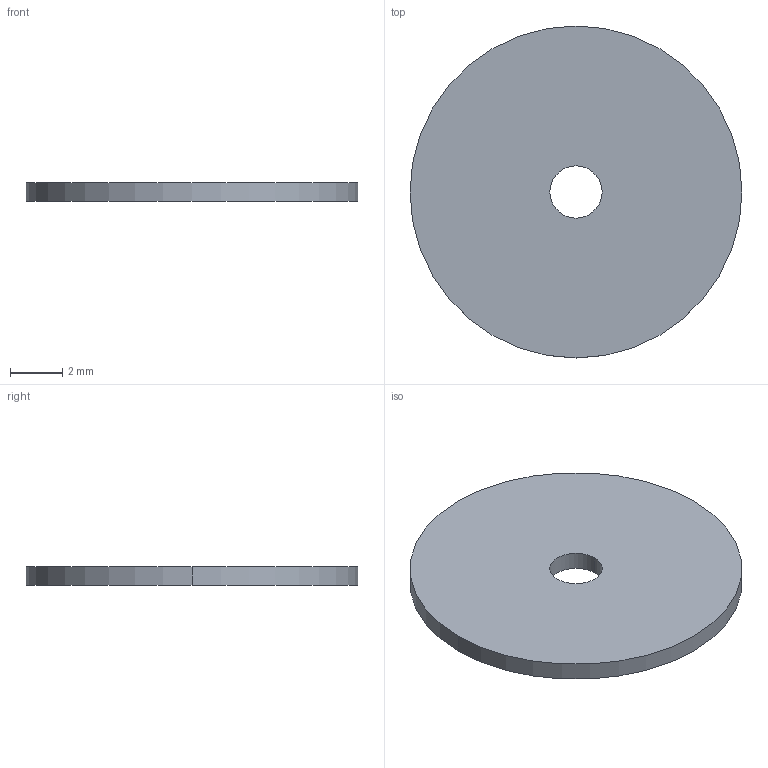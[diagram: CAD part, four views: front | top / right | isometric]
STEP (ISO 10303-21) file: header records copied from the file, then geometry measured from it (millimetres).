
FILE_DESCRIPTION((''),'2;1');
FILE_NAME('2MM','2022-04-24T',('Administrator'),(''),'CREO PARAMETRIC BY PTC INC, 2015290','CREO PARAMETRIC BY PTC INC, 2015290','');
FILE_SCHEMA(('CONFIG_CONTROL_DESIGN'));
Length unit declared in the file: millimetre
Products named in the file (1): 2MM
Bounding box: 12.7 x 12.7 x 0.7 mm (x, y, z)
Volume: 86.5 mm3; surface area: 279.4 mm2
Topology: 1 solids, 1 shells, 6 faces, 12 edges, 8 vertices
Faces by surface type: cylinder 4, plane 2
Entity records: 206 total; most frequent: DIRECTION 32, CARTESIAN_POINT 26, ORIENTED_EDGE 24, AXIS2_PLACEMENT_3D 14, EDGE_CURVE 12, VERTEX_POINT 8, EDGE_LOOP 8, CIRCLE 8
